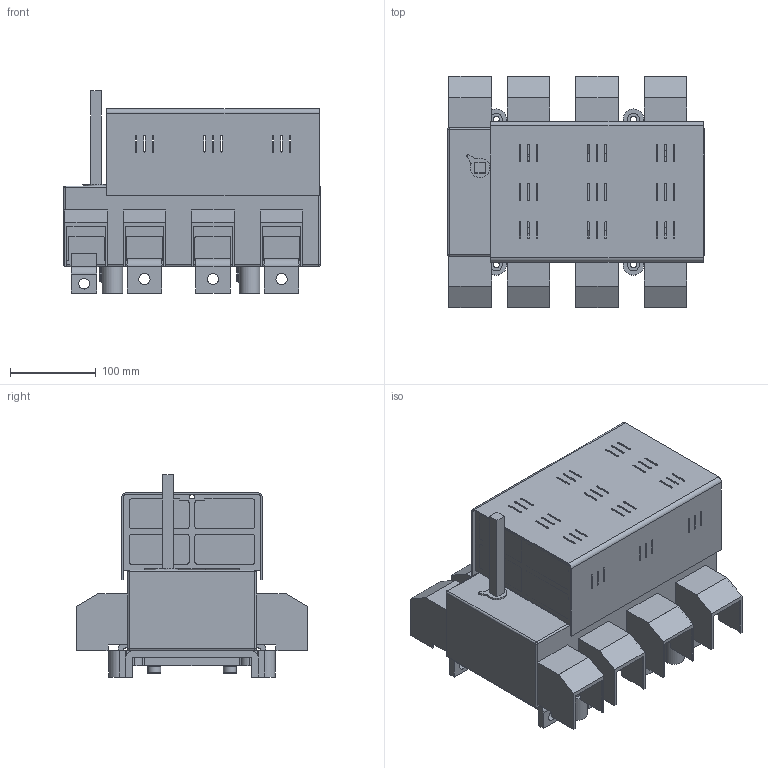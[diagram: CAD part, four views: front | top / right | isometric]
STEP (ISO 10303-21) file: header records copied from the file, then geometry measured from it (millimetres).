
FILE_DESCRIPTION(/* description */ (''),/* implementation_level */ '2;1');
FILE_NAME(/* name */ 'RAB 3 P3 N C z oslona zaciskow.stp',/* time_stamp */ '2021-08-19T15:11:11+02:00',/* author */ (''),/* organization */ (''),/* preprocessor_version */ 'ST-DEVELOPER v18.1',/* originating_system */ 'SIEMENS PLM Software NX 1965',/* authorisation */ '');
FILE_SCHEMA (('PROCESS_PLANNING_SCHEMA','AP242_MANAGED_MODEL_BASED_3D_ENGINEERING_MIM_LF { 1 0 10303 442 1 1 4 }'));
Length unit declared in the file: millimetre
Products named in the file (1): RAB 3 P3 N C z oslona zaciskow_stp
Bounding box: 300 x 270 x 236 mm (x, y, z)
Volume: 4651059.1 mm3; surface area: 809919.5 mm2
Topology: 1 solids, 13 shells, 1791 faces, 4898 edges, 3154 vertices
Faces by surface type: plane 1107, cylinder 574, bspline 50, torus 44, cone 8, sphere 8
Full cylindrical faces by diameter (mm): 3 x4, 4.8 x4, 5.2 x2, 5.6 x4, 6.5 x26, 7 x4, 10.5 x26, 12.5 x2, 13 x6, 13.5 x4, 14 x4, 15 x4
Entity records: 58381 total; most frequent: CARTESIAN_POINT 12740, ORIENTED_EDGE 9488, DIRECTION 9360, EDGE_CURVE 4744, LINE 3372, VECTOR 3372, VERTEX_POINT 3126, AXIS2_PLACEMENT_3D 2994
